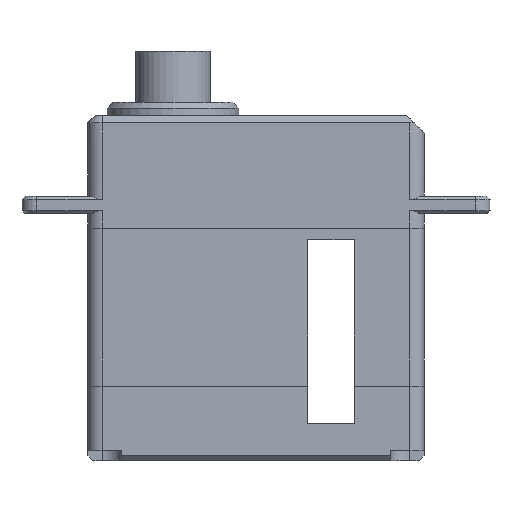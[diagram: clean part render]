
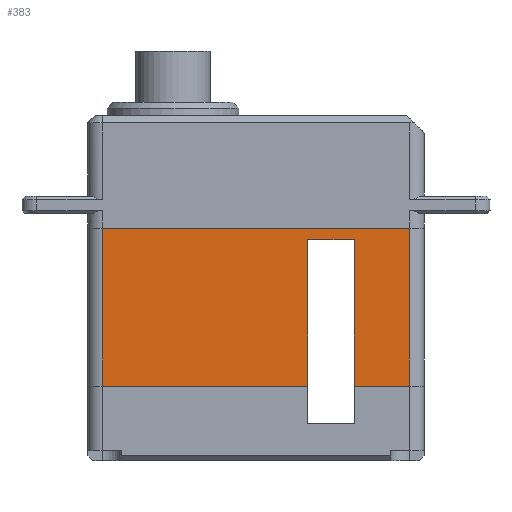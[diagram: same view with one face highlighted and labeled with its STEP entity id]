
A CAD part, front view. The second image highlights one B-rep face of the part: STEP entity #383.
In plain terms, the highlighted planar face has unit normal (0, -1, 0).
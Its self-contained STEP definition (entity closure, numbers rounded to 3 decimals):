
#93 = ORIENTED_EDGE ( 'NONE', *, *, #8960, .T. ) ;
#363 = EDGE_CURVE ( 'NONE', #1377, #10345, #11020, .T. ) ;
#383 = ADVANCED_FACE ( 'NONE', ( #2994 ), #4824, .T. ) ;
#481 = LINE ( 'NONE', #8981, #9166 ) ;
#541 = VERTEX_POINT ( 'NONE', #9468 ) ;
#553 = CARTESIAN_POINT ( 'NONE',  ( 0., -6., -19.6 ) ) ;
#873 = VERTEX_POINT ( 'NONE', #1264 ) ;
#886 = VECTOR ( 'NONE', #2092, 1000. ) ;
#915 = LINE ( 'NONE', #10059, #1436 ) ;
#1113 = ORIENTED_EDGE ( 'NONE', *, *, #3665, .T. ) ;
#1264 = CARTESIAN_POINT ( 'NONE',  ( 10.5, -6., -19.6 ) ) ;
#1377 = VERTEX_POINT ( 'NONE', #7710 ) ;
#1436 = VECTOR ( 'NONE', #10942, 1000. ) ;
#1454 = DIRECTION ( 'NONE',  ( 0., 0., 1. ) ) ;
#1587 = CARTESIAN_POINT ( 'NONE',  ( 11.5, -6., -8.8 ) ) ;
#1654 = CARTESIAN_POINT ( 'NONE',  ( -10.5, -6., -8.8 ) ) ;
#1788 = CARTESIAN_POINT ( 'NONE',  ( 3.525, -6., -9.585 ) ) ;
#1916 = VERTEX_POINT ( 'NONE', #6135 ) ;
#1980 = VECTOR ( 'NONE', #4288, 1000. ) ;
#2063 = CARTESIAN_POINT ( 'NONE',  ( 6.725, -6., -19.6 ) ) ;
#2092 = DIRECTION ( 'NONE',  ( -1., 0., 0. ) ) ;
#2321 = DIRECTION ( 'NONE',  ( 1., 0., 0. ) ) ;
#2329 = ORIENTED_EDGE ( 'NONE', *, *, #9458, .F. ) ;
#2349 = LINE ( 'NONE', #5663, #2485 ) ;
#2485 = VECTOR ( 'NONE', #1454, 1000. ) ;
#2930 = VERTEX_POINT ( 'NONE', #7697 ) ;
#2994 = FACE_OUTER_BOUND ( 'NONE', #9964, .T. ) ;
#3442 = VECTOR ( 'NONE', #5629, 1000. ) ;
#3455 = VECTOR ( 'NONE', #6726, 1000. ) ;
#3665 = EDGE_CURVE ( 'NONE', #10345, #2930, #481, .T. ) ;
#3697 = LINE ( 'NONE', #9475, #1980 ) ;
#4042 = DIRECTION ( 'NONE',  ( 0., 0., -1. ) ) ;
#4160 = CARTESIAN_POINT ( 'NONE',  ( 10.5, -6., -8.8 ) ) ;
#4227 = EDGE_CURVE ( 'NONE', #4518, #541, #9415, .T. ) ;
#4239 = LINE ( 'NONE', #1654, #3455 ) ;
#4251 = ORIENTED_EDGE ( 'NONE', *, *, #9152, .T. ) ;
#4288 = DIRECTION ( 'NONE',  ( 0., 0., -1. ) ) ;
#4383 = EDGE_CURVE ( 'NONE', #873, #4518, #2349, .T. ) ;
#4518 = VERTEX_POINT ( 'NONE', #4160 ) ;
#4824 = PLANE ( 'NONE',  #5938 ) ;
#4902 = CARTESIAN_POINT ( 'NONE',  ( 3.525, -6., -8.8 ) ) ;
#5311 = ORIENTED_EDGE ( 'NONE', *, *, #4383, .T. ) ;
#5629 = DIRECTION ( 'NONE',  ( -1., 0., 0. ) ) ;
#5663 = CARTESIAN_POINT ( 'NONE',  ( 10.5, -6., -8.8 ) ) ;
#5760 = DIRECTION ( 'NONE',  ( 0., 0., 1. ) ) ;
#5938 = AXIS2_PLACEMENT_3D ( 'NONE', #1587, #6548, #4042 ) ;
#6135 = CARTESIAN_POINT ( 'NONE',  ( -10.5, -6., -19.6 ) ) ;
#6485 = ORIENTED_EDGE ( 'NONE', *, *, #363, .T. ) ;
#6548 = DIRECTION ( 'NONE',  ( 0., -1., 0. ) ) ;
#6726 = DIRECTION ( 'NONE',  ( 0., 0., -1. ) ) ;
#6733 = ORIENTED_EDGE ( 'NONE', *, *, #9374, .F. ) ;
#6735 = VECTOR ( 'NONE', #5760, 1000. ) ;
#7159 = ORIENTED_EDGE ( 'NONE', *, *, #4227, .T. ) ;
#7202 = CARTESIAN_POINT ( 'NONE',  ( 0., -6., -8.8 ) ) ;
#7697 = CARTESIAN_POINT ( 'NONE',  ( 6.725, -6., -9.585 ) ) ;
#7710 = CARTESIAN_POINT ( 'NONE',  ( 3.525, -6., -19.6 ) ) ;
#8960 = EDGE_CURVE ( 'NONE', #541, #1916, #4239, .T. ) ;
#8981 = CARTESIAN_POINT ( 'NONE',  ( 0.035, -6., -9.585 ) ) ;
#9152 = EDGE_CURVE ( 'NONE', #2930, #9203, #3697, .T. ) ;
#9166 = VECTOR ( 'NONE', #2321, 1000. ) ;
#9203 = VERTEX_POINT ( 'NONE', #2063 ) ;
#9374 = EDGE_CURVE ( 'NONE', #1377, #1916, #9966, .T. ) ;
#9415 = LINE ( 'NONE', #7202, #886 ) ;
#9458 = EDGE_CURVE ( 'NONE', #873, #9203, #915, .T. ) ;
#9468 = CARTESIAN_POINT ( 'NONE',  ( -10.5, -6., -8.8 ) ) ;
#9475 = CARTESIAN_POINT ( 'NONE',  ( 6.725, -6., -8.8 ) ) ;
#9964 = EDGE_LOOP ( 'NONE', ( #6485, #1113, #4251, #2329, #5311, #7159, #93, #6733 ) ) ;
#9966 = LINE ( 'NONE', #553, #3442 ) ;
#10059 = CARTESIAN_POINT ( 'NONE',  ( 0., -6., -19.6 ) ) ;
#10345 = VERTEX_POINT ( 'NONE', #1788 ) ;
#10942 = DIRECTION ( 'NONE',  ( -1., 0., 0. ) ) ;
#11020 = LINE ( 'NONE', #4902, #6735 ) ;
